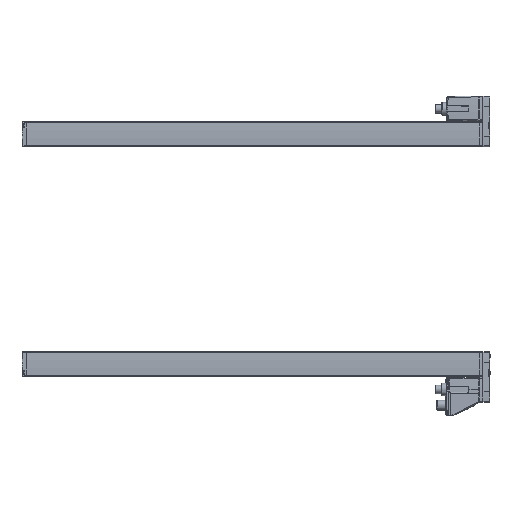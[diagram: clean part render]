
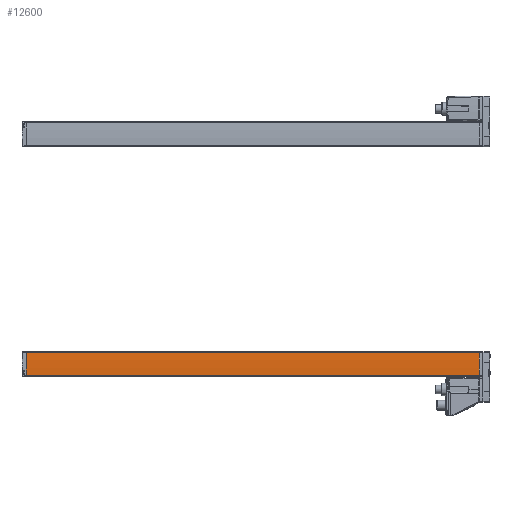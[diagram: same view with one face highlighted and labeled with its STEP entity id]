
A CAD part, left-side view. The second image highlights one B-rep face of the part: STEP entity #12600.
In plain terms, the highlighted cylindrical face has radius 250 mm (diameter 500 mm), a partial arc.
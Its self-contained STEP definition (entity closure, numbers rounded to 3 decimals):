
#11678=CYLINDRICAL_SURFACE('',#79139,250.);
#12600=ADVANCED_FACE('',(#18549),#11678,.T.);
#18549=FACE_OUTER_BOUND('',#22189,.T.);
#22189=EDGE_LOOP('',(#29285,#29286,#29287,#29288));
#26616=CIRCLE('',#79049,250.);
#26663=CIRCLE('',#79138,250.);
#29285=ORIENTED_EDGE('',*,*,#56790,.T.);
#29286=ORIENTED_EDGE('',*,*,#56914,.F.);
#29287=ORIENTED_EDGE('',*,*,#56915,.T.);
#29288=ORIENTED_EDGE('',*,*,#56912,.F.);
#49990=VERTEX_POINT('',#104094);
#49991=VERTEX_POINT('',#104096);
#50072=VERTEX_POINT('',#104340);
#50073=VERTEX_POINT('',#104344);
#56790=EDGE_CURVE('',#49991,#49990,#26616,.T.);
#56912=EDGE_CURVE('',#49991,#50072,#67318,.T.);
#56914=EDGE_CURVE('',#50073,#49990,#67319,.T.);
#56915=EDGE_CURVE('',#50073,#50072,#26663,.T.);
#67318=LINE('',#104339,#73178);
#67319=LINE('',#104343,#73179);
#73178=VECTOR('',#85629,1.);
#73179=VECTOR('',#85634,1.);
#79049=AXIS2_PLACEMENT_3D('',#104095,#85379,#85380);
#79138=AXIS2_PLACEMENT_3D('',#104345,#85635,#85636);
#79139=AXIS2_PLACEMENT_3D('',#104346,#85637,#85638);
#85379=DIRECTION('',(0.,0.,1.));
#85380=DIRECTION('',(-0.998,0.067,0.));
#85629=DIRECTION('',(0.,0.,1.));
#85634=DIRECTION('',(0.,0.,-1.));
#85635=DIRECTION('',(0.,0.,-1.));
#85636=DIRECTION('',(-0.998,0.067,0.));
#85637=DIRECTION('',(0.,0.,-1.));
#85638=DIRECTION('',(0.998,-0.067,0.));
#104094=CARTESIAN_POINT('',(13.731,16.86,-642.));
#104095=CARTESIAN_POINT('',(-235.7,0.,-642.));
#104096=CARTESIAN_POINT('',(13.793,-15.907,-642.));
#104339=CARTESIAN_POINT('',(13.793,-15.907,-452.));
#104340=CARTESIAN_POINT('',(13.793,-15.907,0.));
#104343=CARTESIAN_POINT('',(13.731,16.86,0.));
#104344=CARTESIAN_POINT('',(13.731,16.86,0.));
#104345=CARTESIAN_POINT('',(-235.7,0.,0.));
#104346=CARTESIAN_POINT('',(-235.7,0.,0.));
